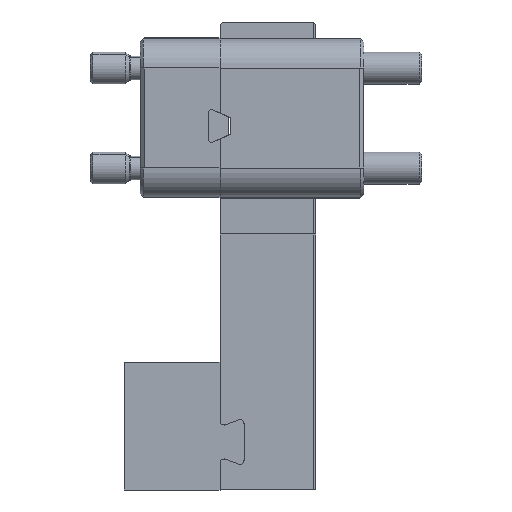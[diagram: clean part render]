
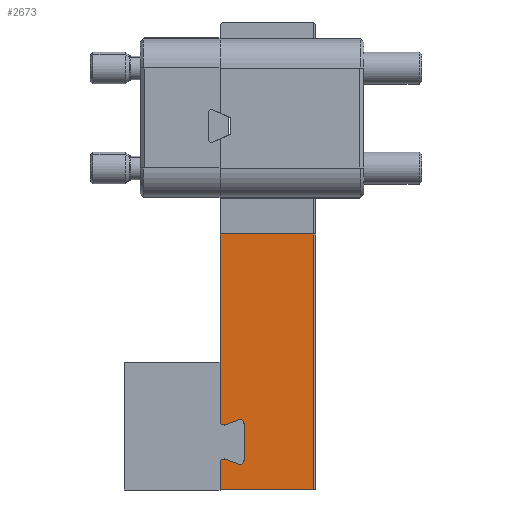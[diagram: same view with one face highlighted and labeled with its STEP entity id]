
A CAD part, left-side view. The second image highlights one B-rep face of the part: STEP entity #2673.
In plain terms, the highlighted planar face has unit normal (-1, 0, 0) as drawn and (0, 0, -1) by its records, which use the part's own axes.
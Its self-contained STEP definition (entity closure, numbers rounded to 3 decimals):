
#46 = CARTESIAN_POINT ( 'NONE',  ( 26.848, 11.329, -8.2 ) ) ;
#72 = ORIENTED_EDGE ( 'NONE', *, *, #98, .F. ) ;
#79 = DIRECTION ( 'NONE',  ( -1., 0., 0. ) ) ;
#90 = CARTESIAN_POINT ( 'NONE',  ( 0., 12., -8.2 ) ) ;
#98 = EDGE_CURVE ( 'NONE', #5990, #13241, #2159, .T. ) ;
#123 = EDGE_CURVE ( 'NONE', #1741, #4040, #3331, .T. ) ;
#315 = CARTESIAN_POINT ( 'NONE',  ( 3., 0.3, -8.2 ) ) ;
#325 = DIRECTION ( 'NONE',  ( 1., 0., 0. ) ) ;
#351 = LINE ( 'NONE', #2866, #7202 ) ;
#380 = VERTEX_POINT ( 'NONE', #315 ) ;
#516 = DIRECTION ( 'NONE',  ( 0., -1., 0. ) ) ;
#629 = EDGE_LOOP ( 'NONE', ( #9713, #1360, #12110, #72, #10508, #9995, #12362, #9213, #13136, #4730, #4464, #2042, #5724, #5112 ) ) ;
#843 = VERTEX_POINT ( 'NONE', #2276 ) ;
#965 = EDGE_CURVE ( 'NONE', #9602, #4382, #10842, .T. ) ;
#990 = AXIS2_PLACEMENT_3D ( 'NONE', #10639, #1042, #6421 ) ;
#996 = CARTESIAN_POINT ( 'NONE',  ( 31.756, 9.671, -8.2 ) ) ;
#1042 = DIRECTION ( 'NONE',  ( 0., 0., 1. ) ) ;
#1072 = DIRECTION ( 'NONE',  ( 1., 0., 0. ) ) ;
#1236 = CARTESIAN_POINT ( 'NONE',  ( 0., 9., -8.2 ) ) ;
#1360 = ORIENTED_EDGE ( 'NONE', *, *, #5591, .T. ) ;
#1445 = LINE ( 'NONE', #3485, #9647 ) ;
#1638 = VECTOR ( 'NONE', #10715, 1000. ) ;
#1738 = AXIS2_PLACEMENT_3D ( 'NONE', #3377, #2341, #1072 ) ;
#1741 = VERTEX_POINT ( 'NONE', #9103 ) ;
#2042 = ORIENTED_EDGE ( 'NONE', *, *, #9420, .T. ) ;
#2159 = LINE ( 'NONE', #11236, #11363 ) ;
#2276 = CARTESIAN_POINT ( 'NONE',  ( 31.786, 9.5, -8.2 ) ) ;
#2341 = DIRECTION ( 'NONE',  ( 0., 0., 1. ) ) ;
#2673 = ADVANCED_FACE ( 'NONE', ( #8951 ), #9564, .F. ) ;
#2744 = CARTESIAN_POINT ( 'NONE',  ( 26.244, 9.671, -8.2 ) ) ;
#2849 = AXIS2_PLACEMENT_3D ( 'NONE', #9970, #13257, #11045 ) ;
#2866 = CARTESIAN_POINT ( 'NONE',  ( 27.293, 21.934, -8.2 ) ) ;
#3010 = CIRCLE ( 'NONE', #8897, 0.5 ) ;
#3331 = CIRCLE ( 'NONE', #10479, 0.5 ) ;
#3377 = CARTESIAN_POINT ( 'NONE',  ( 31.286, 9.5, -8.2 ) ) ;
#3485 = CARTESIAN_POINT ( 'NONE',  ( 23.923, 3.293, -8.2 ) ) ;
#3543 = VERTEX_POINT ( 'NONE', #7900 ) ;
#3557 = CARTESIAN_POINT ( 'NONE',  ( 31.152, 11.329, -8.2 ) ) ;
#4040 = VERTEX_POINT ( 'NONE', #46 ) ;
#4382 = VERTEX_POINT ( 'NONE', #11866 ) ;
#4451 = EDGE_CURVE ( 'NONE', #9602, #6483, #3010, .T. ) ;
#4464 = ORIENTED_EDGE ( 'NONE', *, *, #12355, .T. ) ;
#4542 = CARTESIAN_POINT ( 'NONE',  ( 31.622, 11.5, -8.2 ) ) ;
#4602 = CARTESIAN_POINT ( 'NONE',  ( 26.714, 9., -8.2 ) ) ;
#4730 = ORIENTED_EDGE ( 'NONE', *, *, #7876, .T. ) ;
#5112 = ORIENTED_EDGE ( 'NONE', *, *, #12367, .F. ) ;
#5394 = VERTEX_POINT ( 'NONE', #11261 ) ;
#5464 = AXIS2_PLACEMENT_3D ( 'NONE', #4542, #10908, #5616 ) ;
#5527 = CIRCLE ( 'NONE', #5464, 0.5 ) ;
#5591 = EDGE_CURVE ( 'NONE', #3543, #380, #12853, .T. ) ;
#5616 = DIRECTION ( 'NONE',  ( 1., 0., 0. ) ) ;
#5671 = DIRECTION ( 'NONE',  ( 0., 0., -1. ) ) ;
#5724 = ORIENTED_EDGE ( 'NONE', *, *, #9134, .F. ) ;
#5735 = CIRCLE ( 'NONE', #2849, 0.5 ) ;
#5758 = CARTESIAN_POINT ( 'NONE',  ( 26.714, 9.5, -8.2 ) ) ;
#5990 = VERTEX_POINT ( 'NONE', #10597 ) ;
#6133 = DIRECTION ( 'NONE',  ( 1., 0., 0. ) ) ;
#6421 = DIRECTION ( 'NONE',  ( 1., 0., 0. ) ) ;
#6483 = VERTEX_POINT ( 'NONE', #2744 ) ;
#6594 = VECTOR ( 'NONE', #8034, 1000. ) ;
#6604 = VERTEX_POINT ( 'NONE', #13743 ) ;
#6966 = CARTESIAN_POINT ( 'NONE',  ( 3., 0., -8.2 ) ) ;
#7029 = DIRECTION ( 'NONE',  ( -1., 0., 0. ) ) ;
#7062 = EDGE_CURVE ( 'NONE', #5394, #3543, #11795, .T. ) ;
#7152 = EDGE_CURVE ( 'NONE', #380, #13241, #7749, .T. ) ;
#7202 = VECTOR ( 'NONE', #12546, 1000. ) ;
#7749 = LINE ( 'NONE', #6966, #6594 ) ;
#7876 = EDGE_CURVE ( 'NONE', #4382, #843, #5735, .T. ) ;
#7900 = CARTESIAN_POINT ( 'NONE',  ( 35., 0.3, -8.2 ) ) ;
#8034 = DIRECTION ( 'NONE',  ( 0., 1., 0. ) ) ;
#8347 = CIRCLE ( 'NONE', #1738, 0.5 ) ;
#8776 = DIRECTION ( 'NONE',  ( 1., 0., 0. ) ) ;
#8831 = DIRECTION ( 'NONE',  ( 0., 0., -1. ) ) ;
#8897 = AXIS2_PLACEMENT_3D ( 'NONE', #5758, #5671, #11010 ) ;
#8951 = FACE_OUTER_BOUND ( 'NONE', #629, .T. ) ;
#9103 = CARTESIAN_POINT ( 'NONE',  ( 26.878, 11.5, -8.2 ) ) ;
#9123 = CARTESIAN_POINT ( 'NONE',  ( 35., 12., -8.2 ) ) ;
#9128 = VERTEX_POINT ( 'NONE', #3557 ) ;
#9134 = EDGE_CURVE ( 'NONE', #6604, #9128, #5527, .T. ) ;
#9213 = ORIENTED_EDGE ( 'NONE', *, *, #4451, .F. ) ;
#9420 = EDGE_CURVE ( 'NONE', #13582, #9128, #351, .T. ) ;
#9564 = PLANE ( 'NONE',  #990 ) ;
#9580 = CARTESIAN_POINT ( 'NONE',  ( 3., 0.3, -8.2 ) ) ;
#9602 = VERTEX_POINT ( 'NONE', #4602 ) ;
#9647 = VECTOR ( 'NONE', #12427, 1000. ) ;
#9713 = ORIENTED_EDGE ( 'NONE', *, *, #7062, .T. ) ;
#9876 = CARTESIAN_POINT ( 'NONE',  ( 26.378, 11.5, -8.2 ) ) ;
#9970 = CARTESIAN_POINT ( 'NONE',  ( 31.286, 9.5, -8.2 ) ) ;
#9995 = ORIENTED_EDGE ( 'NONE', *, *, #123, .T. ) ;
#10019 = LINE ( 'NONE', #90, #1638 ) ;
#10443 = CARTESIAN_POINT ( 'NONE',  ( 26.378, 11.5, -8.2 ) ) ;
#10479 = AXIS2_PLACEMENT_3D ( 'NONE', #10443, #12513, #6133 ) ;
#10508 = ORIENTED_EDGE ( 'NONE', *, *, #12533, .T. ) ;
#10597 = CARTESIAN_POINT ( 'NONE',  ( 26.378, 12., -8.2 ) ) ;
#10639 = CARTESIAN_POINT ( 'NONE',  ( 0., 12., -8.2 ) ) ;
#10715 = DIRECTION ( 'NONE',  ( -1., 0., 0. ) ) ;
#10842 = LINE ( 'NONE', #1236, #12695 ) ;
#10908 = DIRECTION ( 'NONE',  ( 0., 0., 1. ) ) ;
#11010 = DIRECTION ( 'NONE',  ( 1., 0., 0. ) ) ;
#11045 = DIRECTION ( 'NONE',  ( 1., 0., 0. ) ) ;
#11236 = CARTESIAN_POINT ( 'NONE',  ( 0., 12., -8.2 ) ) ;
#11261 = CARTESIAN_POINT ( 'NONE',  ( 35., 12., -8.2 ) ) ;
#11279 = VECTOR ( 'NONE', #516, 1000. ) ;
#11363 = VECTOR ( 'NONE', #7029, 1000. ) ;
#11795 = LINE ( 'NONE', #9123, #11279 ) ;
#11844 = VECTOR ( 'NONE', #79, 1000. ) ;
#11866 = CARTESIAN_POINT ( 'NONE',  ( 31.286, 9., -8.2 ) ) ;
#12110 = ORIENTED_EDGE ( 'NONE', *, *, #7152, .T. ) ;
#12195 = CARTESIAN_POINT ( 'NONE',  ( 3., 12., -8.2 ) ) ;
#12355 = EDGE_CURVE ( 'NONE', #843, #13582, #8347, .T. ) ;
#12362 = ORIENTED_EDGE ( 'NONE', *, *, #13192, .F. ) ;
#12367 = EDGE_CURVE ( 'NONE', #5394, #6604, #10019, .T. ) ;
#12427 = DIRECTION ( 'NONE',  ( 0.342, 0.94, 0. ) ) ;
#12513 = DIRECTION ( 'NONE',  ( 0., 0., -1. ) ) ;
#12533 = EDGE_CURVE ( 'NONE', #5990, #1741, #12536, .T. ) ;
#12536 = CIRCLE ( 'NONE', #13413, 0.5 ) ;
#12546 = DIRECTION ( 'NONE',  ( -0.342, 0.94, 0. ) ) ;
#12695 = VECTOR ( 'NONE', #8776, 1000. ) ;
#12853 = LINE ( 'NONE', #9580, #11844 ) ;
#13136 = ORIENTED_EDGE ( 'NONE', *, *, #965, .T. ) ;
#13192 = EDGE_CURVE ( 'NONE', #6483, #4040, #1445, .T. ) ;
#13241 = VERTEX_POINT ( 'NONE', #12195 ) ;
#13257 = DIRECTION ( 'NONE',  ( 0., 0., 1. ) ) ;
#13413 = AXIS2_PLACEMENT_3D ( 'NONE', #9876, #8831, #325 ) ;
#13582 = VERTEX_POINT ( 'NONE', #996 ) ;
#13743 = CARTESIAN_POINT ( 'NONE',  ( 31.622, 12., -8.2 ) ) ;
